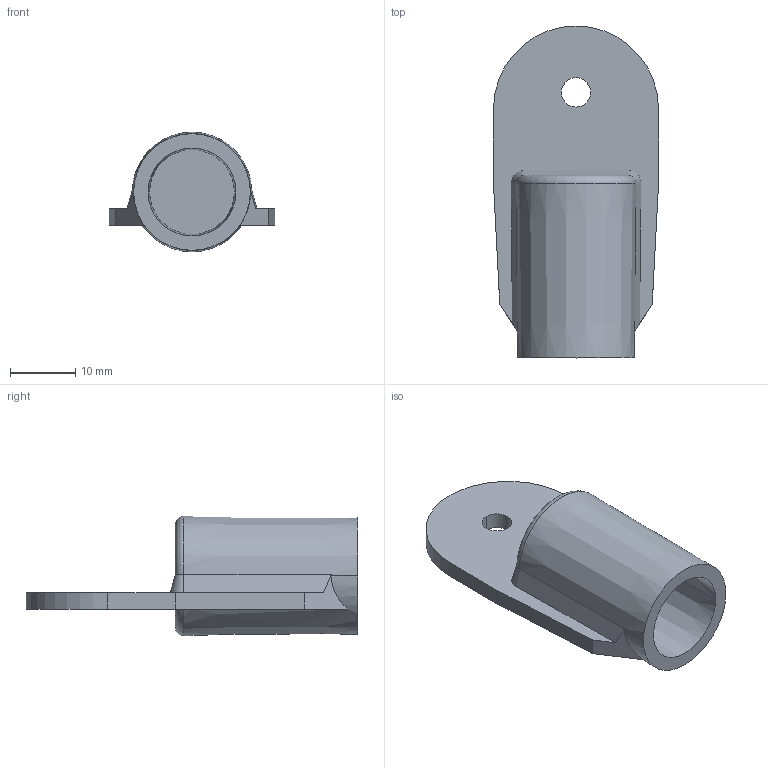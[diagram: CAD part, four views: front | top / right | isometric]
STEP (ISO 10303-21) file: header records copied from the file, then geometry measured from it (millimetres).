
FILE_DESCRIPTION (( 'STEP AP214' ), '1' );
FILE_NAME ('DRP-002-0101-00.STEP', '2010-08-12T16:51:05', ( '' ), ( '' ), 'SwSTEP 2.0', 'SolidWorks 2010', '' );
FILE_SCHEMA (( 'AUTOMOTIVE_DESIGN' ));
Length unit declared in the file: inch
Products named in the file (1): DRP-002-0101-00
Bounding box: 25.4 x 50.8 x 18.31 mm (x, y, z)
Volume: 5621.7 mm3; surface area: 4498.9 mm2
Topology: 1 solids, 1 shells, 29 faces, 72 edges, 46 vertices
Faces by surface type: plane 15, cone 4, cylinder 4, bspline 4, torus 2
Entity records: 977 total; most frequent: CARTESIAN_POINT 289, ORIENTED_EDGE 144, DIRECTION 118, EDGE_CURVE 72, VERTEX_POINT 46, AXIS2_PLACEMENT_3D 44, EDGE_LOOP 32, VECTOR 30
